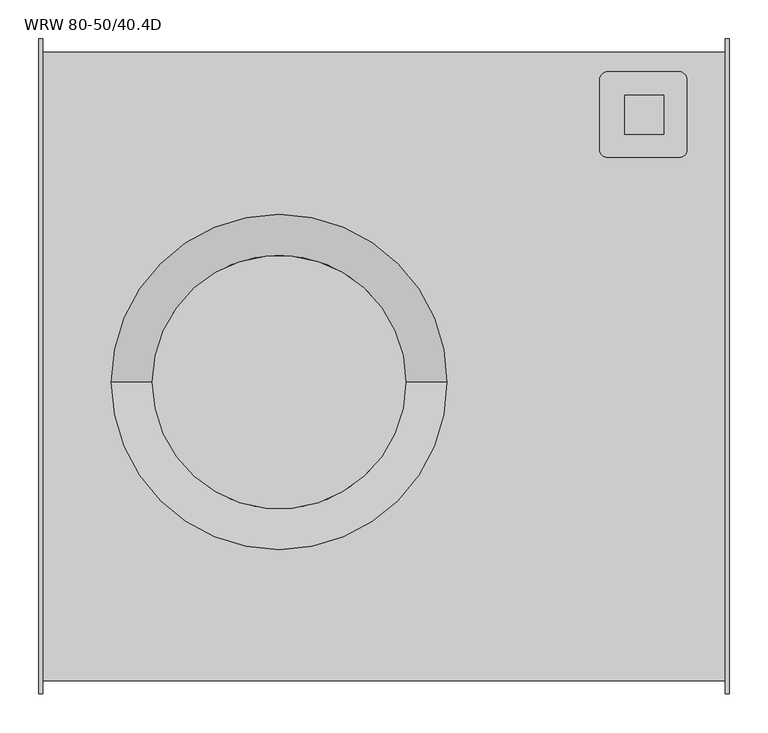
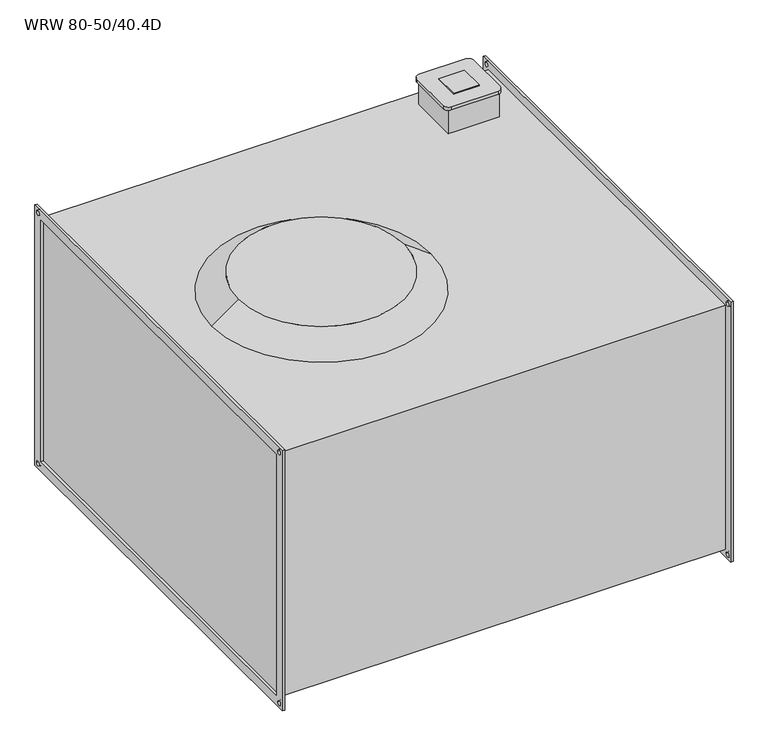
"""IFC4 building model written with IfcOpenShell, lengths in millimetres: proxy geometry, KORF_Вентилятор_WRW : WRW 80-50/40.4D."""

from ifc_helpers import new_model, si_unit, point, frame, frame_2d, origin, place, context, project, spatial, polyline, circle_curve, trimmed, segment, composite_curve, outline, extrude, source, transform, mapped, element, save
from ifc_brep_helpers import plane_surface, cylinder_surface, revolved_surface, advanced_brep


def wrw_80_50_40_4d_fa69a5ef(model_context):
    return source(origin(), model_context, "Body", "SolidModel", [
        extrude(outline(polyline([(751.0, 298.0), (751.0, 348.0), (801.0, 348.0), (801.0, 298.0), (751.0, 298.0)])), frame((0.0, 0.0, 311.0), z_axis=(0.0, 0.0, 1.0), x_axis=(1.0, 0.0, 0.0)), (0.0, 0.0, 1.0), 2.0),
        advanced_brep(
        [(821.0, 378.0, 311.0), (729.318163, 378.0, 311.0), (719.318163, 368.0, 311.0), (719.318163, 278.0, 311.0), (729.318163, 268.0, 311.0), (821.0, 268.0, 311.0), (831.0, 278.0, 311.0), (831.0, 368.0, 311.0), (821.0, 378.0, 304.0), (831.0, 368.0, 304.0), (831.0, 278.0, 304.0), (821.0, 268.0, 304.0), (729.318163, 268.0, 304.0), (719.318163, 278.0, 304.0), (719.318163, 368.0, 304.0), (729.318163, 378.0, 304.0), (826.0, 373.0, 304.0), (726.0, 373.0, 304.0), (726.0, 273.0, 304.0), (826.0, 273.0, 304.0), (826.0, 373.0, 253.0), (826.0, 273.0, 253.0), (726.0, 273.0, 253.0), (726.0, 373.0, 253.0)],
        [
            (0, 1),
            (1, 2, circle_curve(frame((729.318163, 368.0, 311.0), z_axis=(0.0, 0.0, 1.0), x_axis=(1.0, 0.0, 0.0)), 10.0)),
            (2, 3),
            (3, 4, circle_curve(frame((729.318163, 278.0, 311.0), z_axis=(0.0, 0.0, 1.0), x_axis=(1.0, 0.0, 0.0)), 10.0)),
            (4, 5),
            (5, 6, circle_curve(frame((821.0, 278.0, 311.0), z_axis=(0.0, 0.0, 1.0), x_axis=(1.0, 0.0, 0.0)), 10.0)),
            (6, 7),
            (7, 0, circle_curve(frame((821.0, 368.0, 311.0), z_axis=(0.0, 0.0, 1.0), x_axis=(1.0, 0.0, 0.0)), 10.0)),
            (8, 9, circle_curve(frame((821.0, 368.0, 304.0), z_axis=(0.0, 0.0, -1.0), x_axis=(1.0, 0.0, 0.0)), 10.0)),
            (9, 10),
            (10, 11, circle_curve(frame((821.0, 278.0, 304.0), z_axis=(0.0, 0.0, -1.0), x_axis=(1.0, 0.0, 0.0)), 10.0)),
            (11, 12),
            (12, 13, circle_curve(frame((729.318163, 278.0, 304.0), z_axis=(0.0, 0.0, -1.0), x_axis=(1.0, 0.0, 0.0)), 10.0)),
            (13, 14),
            (14, 15, circle_curve(frame((729.318163, 368.0, 304.0), z_axis=(0.0, 0.0, -1.0), x_axis=(1.0, 0.0, 0.0)), 10.0)),
            (15, 8),
            (16, 17),
            (17, 18),
            (18, 19),
            (19, 16),
            (0, 8),
            (15, 1),
            (14, 2),
            (13, 3),
            (12, 4),
            (11, 5),
            (10, 6),
            (9, 7),
            (20, 21),
            (21, 22),
            (22, 23),
            (23, 20),
            (23, 17),
            (16, 20),
            (22, 18),
            (21, 19),
        ],
        [
            plane_surface(frame((729.318163, 378.0, 311.0), z_axis=(0.0, 0.0, 1.0), x_axis=(-1.0, 0.0, 0.0))),
            plane_surface(frame((729.318163, 378.0, 304.0), z_axis=(0.0, 0.0, -1.0), x_axis=(1.0, 0.0, 0.0))),
            plane_surface(frame((821.0, 378.0, 311.0), z_axis=(0.0, 1.0, 0.0), x_axis=(0.0, 0.0, -1.0))),
            cylinder_surface(frame((729.318163, 368.0, 304.0), z_axis=(0.0, 0.0, 1.0), x_axis=(1.0, 0.0, 0.0)), 10.0),
            plane_surface(frame((719.318163, 368.0, 311.0), z_axis=(-1.0, 0.0, 0.0), x_axis=(0.0, 0.0, -1.0))),
            cylinder_surface(frame((729.318163, 278.0, 304.0), z_axis=(0.0, 0.0, 1.0), x_axis=(1.0, 0.0, 0.0)), 10.0),
            plane_surface(frame((729.318163, 268.0, 311.0), z_axis=(0.0, -1.0, 0.0), x_axis=(0.0, 0.0, -1.0))),
            cylinder_surface(frame((821.0, 278.0, 304.0), z_axis=(0.0, 0.0, 1.0), x_axis=(1.0, 0.0, 0.0)), 10.0),
            plane_surface(frame((831.0, 278.0, 311.0), z_axis=(1.0, 0.0, 0.0), x_axis=(0.0, 0.0, -1.0))),
            cylinder_surface(frame((821.0, 368.0, 304.0), z_axis=(0.0, 0.0, 1.0), x_axis=(1.0, 0.0, 0.0)), 10.0),
            plane_surface(frame((726.0, 373.0, 253.0), z_axis=(0.0, 0.0, -1.0), x_axis=(1.0, 0.0, 0.0))),
            plane_surface(frame((826.0, 373.0, 311.0), z_axis=(0.0, 1.0, 0.0), x_axis=(0.0, 0.0, -1.0))),
            plane_surface(frame((726.0, 373.0, 311.0), z_axis=(-1.0, 0.0, 0.0), x_axis=(0.0, 0.0, -1.0))),
            plane_surface(frame((726.0, 273.0, 311.0), z_axis=(0.0, -1.0, 0.0), x_axis=(0.0, 0.0, -1.0))),
            plane_surface(frame((826.0, 273.0, 311.0), z_axis=(1.0, 0.0, 0.0), x_axis=(0.0, 0.0, -1.0))),
        ],
        [
            (0, [[1, 2, 3, 4, 5, 6, 7, 8]]),
            (1, [[9, 10, 11, 12, 13, 14, 15, 16], [17, 18, 19, 20]]),
            (2, [[-1, 21, -16, 22]]),
            (3, [[-2, -22, -15, 23]]),
            (4, [[-3, -23, -14, 24]]),
            (5, [[-4, -24, -13, 25]]),
            (6, [[-5, -25, -12, 26]]),
            (7, [[-6, -26, -11, 27]]),
            (8, [[-7, -27, -10, 28]]),
            (9, [[-8, -28, -9, -21]]),
            (10, [[29, 30, 31, 32]]),
            (11, [[-32, 33, -17, 34]]),
            (12, [[-31, 35, -18, -33]]),
            (13, [[-30, 36, -19, -35]]),
            (14, [[-29, -34, -20, -36]]),
        ],
    ),
        advanced_brep(
        [(93.0, -20.0, 253.0), (523.0, -20.0, 253.0), (145.5, -20.0, 290.5), (470.5, -20.0, 290.5)],
        [
            (0, 1, circle_curve(frame((308.0, -20.0, 253.0), z_axis=(0.0, 0.0, -1.0), x_axis=(-1.0, 0.0, 0.0)), 215.0)),
            (1, 0, circle_curve(frame((308.0, -20.0, 253.0), z_axis=(0.0, 0.0, -1.0), x_axis=(1.0, 0.0, 0.0)), 215.0)),
            (2, 3, circle_curve(frame((308.0, -20.0, 290.5), z_axis=(0.0, 0.0, 1.0), x_axis=(1.0, 0.0, 0.0)), 162.5)),
            (3, 2, circle_curve(frame((308.0, -20.0, 290.5), z_axis=(0.0, 0.0, 1.0), x_axis=(-1.0, 0.0, 0.0)), 162.5)),
            (2, 0),
            (1, 3),
        ],
        [
            plane_surface(frame((308.0, -20.0, 253.0), z_axis=(0.0, 0.0, -1.0), x_axis=(0.0, -1.0, 0.0))),
            plane_surface(frame((308.0, -20.0, 290.5), z_axis=(0.0, 0.0, 1.0), x_axis=(0.0, -1.0, 0.0))),
            revolved_surface(polyline([(145.49999999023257, -20.0, 290.5), (93.0, -20.0, 253.0)]), (308.0, -20.0, 406.5714286), (0.0, 0.0, -1.0)),
            revolved_surface(polyline([(470.5000000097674, -20.0, 290.5), (523.0, -20.0, 253.0)]), (308.0, -20.0, 406.5714286), (0.0, 0.0, -1.0)),
        ],
        [
            (0, [[1, 2]]),
            (1, [[3, 4]]),
            (2, [[-3, 5, -2, 6]]),
            (3, [[-4, -6, -1, -5]]),
        ],
    ),
        extrude(outline(polyline([(-420.0, 270.0), (420.0, 270.0), (420.0, -270.0), (-420.0, -270.0), (-420.0, 270.0)]), holes=[polyline([(-400.0, 250.0), (-400.0, -250.0), (400.0, -250.0), (400.0, 250.0), (-400.0, 250.0)]), composite_curve([segment(trimmed(circle_curve(frame_2d((410.0, 260.0)), 4.5), [point((405.5, 260.0))], [point((414.5, 260.0))], True, "CARTESIAN"), True, "CONTINUOUS"), segment(trimmed(circle_curve(frame_2d((410.0, 260.0)), 4.5), [point((414.5, 260.0))], [point((405.5, 260.0))], True, "CARTESIAN"), True, "CONTINUOUS")], self_intersect=False), composite_curve([segment(trimmed(circle_curve(frame_2d((-410.0, 260.0)), 4.5), [point((-414.5, 260.0))], [point((-405.5, 260.0))], True, "CARTESIAN"), True, "CONTINUOUS"), segment(trimmed(circle_curve(frame_2d((-410.0, 260.0)), 4.5), [point((-405.5, 260.0))], [point((-414.5, 260.0))], True, "CARTESIAN"), True, "CONTINUOUS")], self_intersect=False), composite_curve([segment(trimmed(circle_curve(frame_2d((-410.0, -260.0)), 4.5), [point((-414.5, -260.0))], [point((-405.5, -260.0))], True, "CARTESIAN"), True, "CONTINUOUS"), segment(trimmed(circle_curve(frame_2d((-410.0, -260.0)), 4.5), [point((-405.5, -260.0))], [point((-414.5, -260.0))], True, "CARTESIAN"), True, "CONTINUOUS")], self_intersect=False), composite_curve([segment(trimmed(circle_curve(frame_2d((410.0, -260.0)), 4.5), [point((405.5, -260.0))], [point((414.5, -260.0))], True, "CARTESIAN"), True, "CONTINUOUS"), segment(trimmed(circle_curve(frame_2d((410.0, -260.0)), 4.5), [point((414.5, -260.0))], [point((405.5, -260.0))], True, "CARTESIAN"), True, "CONTINUOUS")], self_intersect=False)]), frame((880.0, 0.0, 0.0), z_axis=(1.0, 0.0, 0.0), x_axis=(0.0, 1.0, 0.0)), (0.0, 0.0, 1.0), 5.0),
        extrude(outline(polyline([(-420.0, 270.0), (420.0, 270.0), (420.0, -270.0), (-420.0, -270.0), (-420.0, 270.0)]), holes=[polyline([(-400.0, 250.0), (-400.0, -250.0), (400.0, -250.0), (400.0, 250.0), (-400.0, 250.0)]), composite_curve([segment(trimmed(circle_curve(frame_2d((410.0, 260.0)), 4.5), [point((405.5, 260.0))], [point((414.5, 260.0))], True, "CARTESIAN"), True, "CONTINUOUS"), segment(trimmed(circle_curve(frame_2d((410.0, 260.0)), 4.5), [point((414.5, 260.0))], [point((405.5, 260.0))], True, "CARTESIAN"), True, "CONTINUOUS")], self_intersect=False), composite_curve([segment(trimmed(circle_curve(frame_2d((-410.0, 260.0)), 4.5), [point((-414.5, 260.0))], [point((-405.5, 260.0))], True, "CARTESIAN"), True, "CONTINUOUS"), segment(trimmed(circle_curve(frame_2d((-410.0, 260.0)), 4.5), [point((-405.5, 260.0))], [point((-414.5, 260.0))], True, "CARTESIAN"), True, "CONTINUOUS")], self_intersect=False), composite_curve([segment(trimmed(circle_curve(frame_2d((-410.0, -260.0)), 4.5), [point((-414.5, -260.0))], [point((-405.5, -260.0))], True, "CARTESIAN"), True, "CONTINUOUS"), segment(trimmed(circle_curve(frame_2d((-410.0, -260.0)), 4.5), [point((-405.5, -260.0))], [point((-414.5, -260.0))], True, "CARTESIAN"), True, "CONTINUOUS")], self_intersect=False), composite_curve([segment(trimmed(circle_curve(frame_2d((410.0, -260.0)), 4.5), [point((405.5, -260.0))], [point((414.5, -260.0))], True, "CARTESIAN"), True, "CONTINUOUS"), segment(trimmed(circle_curve(frame_2d((410.0, -260.0)), 4.5), [point((414.5, -260.0))], [point((405.5, -260.0))], True, "CARTESIAN"), True, "CONTINUOUS")], self_intersect=False)]), frame((0.0, 0.0, 0.0), z_axis=(1.0, 0.0, 0.0), x_axis=(0.0, 1.0, 0.0)), (0.0, 0.0, 1.0), 5.0),
        extrude(outline(polyline([(880.0, 403.0), (880.0, -403.0), (5.0, -403.0), (5.0, 403.0), (880.0, 403.0)])), frame((0.0, 0.0, -253.0), z_axis=(0.0, 0.0, 1.0), x_axis=(1.0, 0.0, 0.0)), (0.0, 0.0, 1.0), 506.0),
    ])


if __name__ == "__main__":
    model = new_model("IFC4")
    model_context = context("Model", 3, world=origin())
    ifc_project = project(units=[si_unit("LENGTHUNIT", "METRE", prefix="MILLI")], contexts=[model_context])
    site = spatial("IfcSite", under=ifc_project)
    building = spatial("IfcBuilding", under=site)
    placement = place(None, origin())
    wrw_80_50_40_4d_shape = wrw_80_50_40_4d_fa69a5ef(model_context)
    element("IfcBuildingElementProxy", 1, Name="KORF_Вентилятор_WRW : WRW 80-50/40.4D", ObjectType="KORF_Вентилятор_WRW : WRW 80-50/40.4D", at=placement, inside=building, context=model_context, shape_type="MappedRepresentation", body=[
        mapped(wrw_80_50_40_4d_shape, transform((0.0, 0.0, 0.0), x_axis=(1.0, 0.0, 0.0), y_axis=(0.0, 1.0, 0.0), z_axis=(0.0, 0.0, 1.0))),
    ])
    save(model, "model.ifc")
